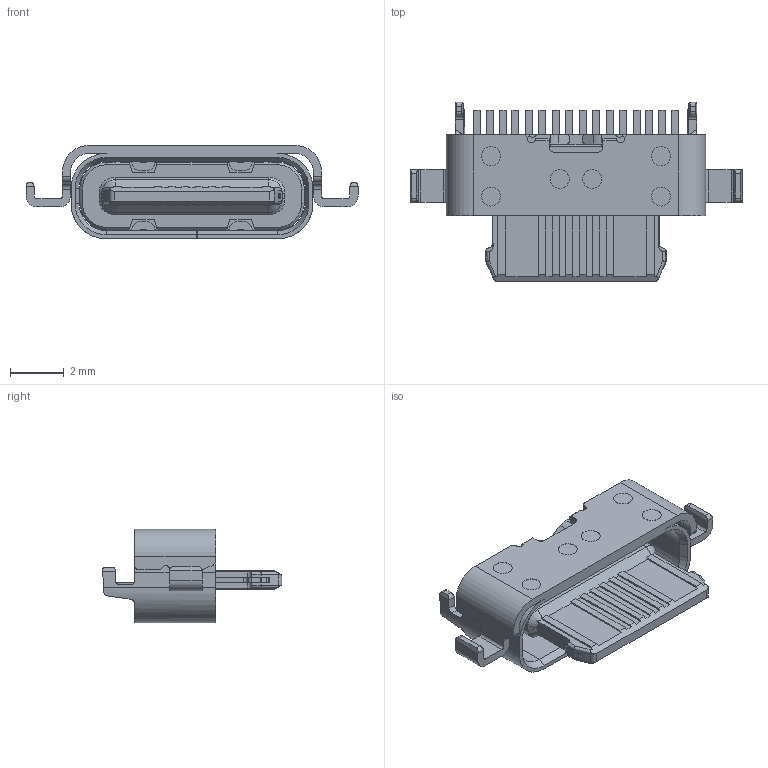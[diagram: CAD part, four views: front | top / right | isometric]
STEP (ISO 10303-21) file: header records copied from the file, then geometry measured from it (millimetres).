
FILE_DESCRIPTION (( 'STEP AP203' ), '1' );
FILE_NAME ('GT-USB-7095A.STEP', '2023-05-29T07:53:29', ( '' ), ( '' ), 'SwSTEP 2.0', 'SolidWorks 2023', '' );
FILE_SCHEMA (( 'CONFIG_CONTROL_DESIGN' ));
Length unit declared in the file: millimetre
Products named in the file (8): USC-016-0050(2)^USC-016-0050; GT-USB-7095A; ASM0001_ASM_ASM_1_ASM^ASM0001_ASM_ASM_ASM_USC-016-0050(2)_USC-016-0050; ASM0001_ASM_ASM_ASM^USC-016-0050(2)_USC-016-0050; eBom-FreeParts; SECOND_INSERTMOLDING_ASM_1_ASM__ASM^ASM0001_ASM_2_ASM_1_ASM_ASM0001_ASM_ASM_1_ASM_ASM0001_ASM_ASM_ASM_USC-016-0050(2)_USC-016-0050; ASM0001_ASM_2_ASM_1_ASM^ASM0001_ASM_ASM_1_ASM_ASM0001_ASM_ASM_ASM_USC-016-0050(2)_USC-016-0050; MAIN_HOUSING_54_1_1_1^SECOND_INSERTMOLDING_ASM_1_ASM__ASM_ASM0001_ASM_2_ASM_1_ASM_ASM0001_ASM_ASM_1_ASM_ASM0001_ASM_ASM_ASM_USC-016-0050(2)_USC-016-0050
Assembly tree (6 placements, depth 7):
  GT-USB-7095A
    USC-016-0050(2)^USC-016-0050
      ASM0001_ASM_ASM_ASM^USC-016-0050(2)_USC-016-0050
        ASM0001_ASM_ASM_1_ASM^ASM0001_ASM_ASM_ASM_USC-016-0050(2)_USC-016-0050
          ASM0001_ASM_2_ASM_1_ASM^ASM0001_ASM_ASM_1_ASM_ASM0001_ASM_ASM_ASM_USC-016-0050(2)_USC-016-0050
            SECOND_INSERTMOLDING_ASM_1_ASM__ASM^ASM0001_ASM_2_ASM_1_ASM_ASM0001_ASM_ASM_1_ASM_ASM0001_ASM_ASM_ASM_USC-016-0050(2)_USC-016-0050
              MAIN_HOUSING_54_1_1_1^SECOND_INSERTMOLDING_ASM_1_ASM__ASM_ASM0001_ASM_2_ASM_1_ASM_ASM0001_ASM_ASM_1_ASM_ASM0001_ASM_ASM_ASM_USC-016-0050(2)_USC-016-0050
  eBom-FreeParts
Bounding box: 12.3 x 6.65 x 3.46 mm (x, y, z)
Volume: 72.7 mm3; surface area: 338.6 mm2
Topology: 1 solids, 1 shells, 902 faces, 2505 edges, 1626 vertices
Faces by surface type: plane 623, cylinder 163, bspline 86, cone 30
Entity records: 33715 total; most frequent: CARTESIAN_POINT 10267, ORIENTED_EDGE 5010, DIRECTION 4253, EDGE_CURVE 2505, VECTOR 1891, LINE 1891, VERTEX_POINT 1626, AXIS2_PLACEMENT_3D 1181
